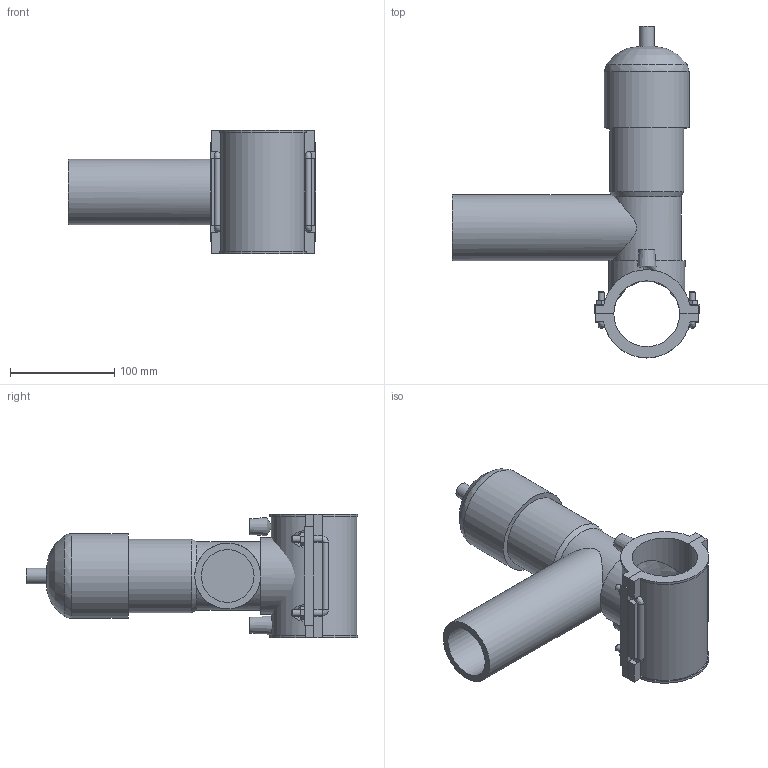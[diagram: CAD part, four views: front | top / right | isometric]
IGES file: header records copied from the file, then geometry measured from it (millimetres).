
Global section: file name: 495404063063.ipt; native system: Autodesk Inventor 2015; preprocessor: unknown; author: KIM; date: 20171106.094237; units: millimetre
Bounding box: 236.5 x 317.68 x 118 mm (x, y, z)
Volume: 1358735.5 mm3; surface area: 207522.4 mm2
Topology: 2 solids, 3 shells, 143 faces, 362 edges, 228 vertices
Faces by surface type: plane 91, cylinder 25, revolution 12, bspline 8, cone 7
Full cylindrical faces by diameter (mm): 4 x2, 6 x10, 14.64 x1, 63 x1, 70.76 x1, 73.2 x1, 81.333 x1
